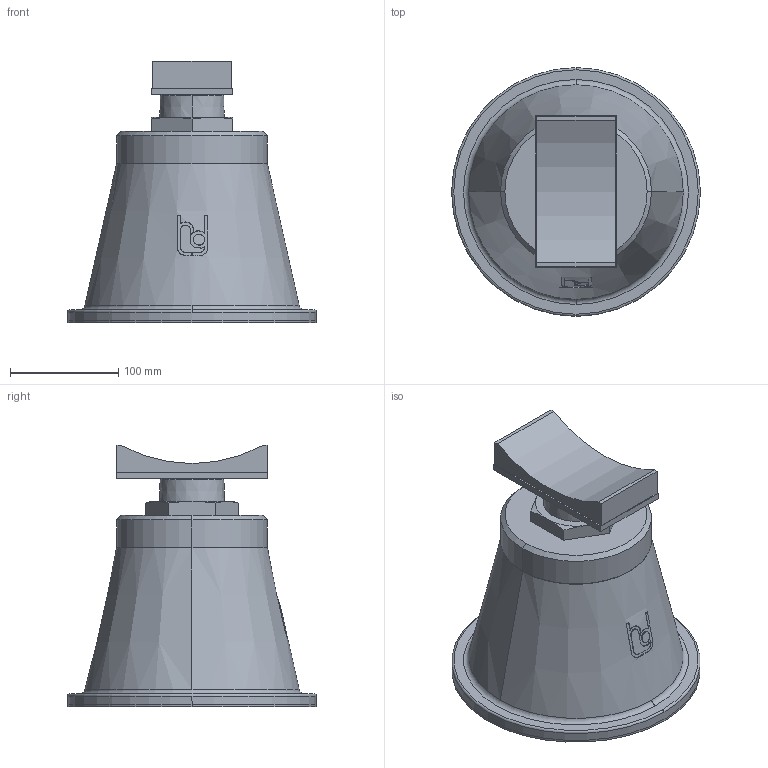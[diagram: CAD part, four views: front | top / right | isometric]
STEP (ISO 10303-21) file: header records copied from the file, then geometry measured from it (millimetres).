
FILE_DESCRIPTION(('STEP AP214'),'1');
FILE_NAME('RSRFN_DN250.stp','2018-06-29T12:59:15',(' '),(' '),'Spatial InterOp 3D',' ',' ');
FILE_SCHEMA(('automotive_design'));
Length unit declared in the file: millimetre
Products named in the file (6): 1; 2; 3; 4; 5; 6
Bounding box: 230 x 230 x 242 mm (x, y, z)
Volume: 4790690.1 mm3; surface area: 370692.6 mm2
Topology: 6 solids, 6 shells, 117 faces, 282 edges, 182 vertices
Faces by surface type: plane 49, cylinder 37, cone 23, torus 8
Entity records: 4852 total; most frequent: CARTESIAN_POINT 1045, DIRECTION 591, ORIENTED_EDGE 564, EDGE_CURVE 282, AXIS2_PLACEMENT_3D 228, VERTEX_POINT 182, LINE 135, VECTOR 135
